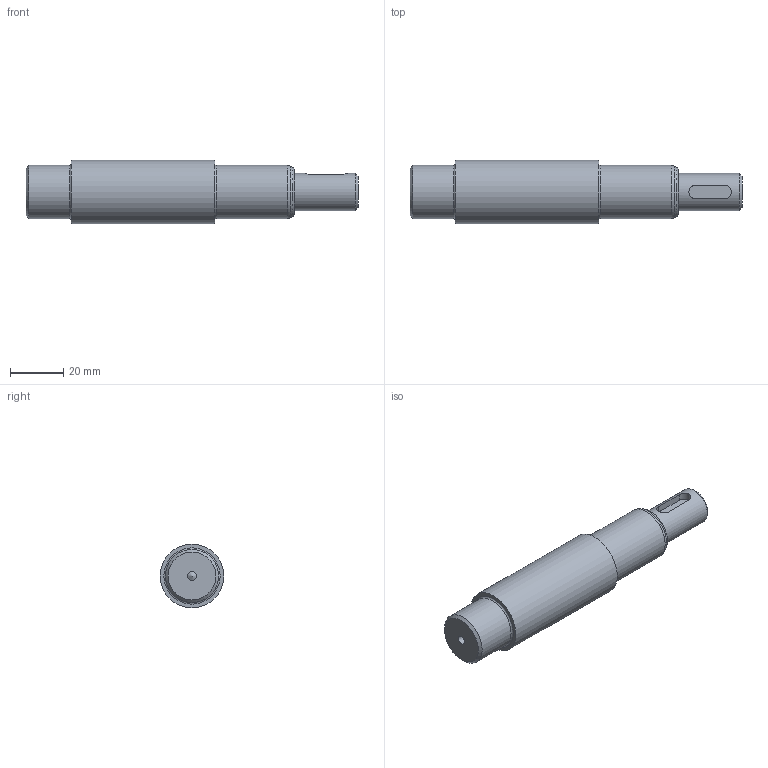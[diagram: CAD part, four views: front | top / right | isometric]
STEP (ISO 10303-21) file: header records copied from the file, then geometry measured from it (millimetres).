
FILE_DESCRIPTION(/* description */ (''),/* implementation_level */ '2;1');
FILE_NAME(/* name */ '',/* time_stamp */ '2026-07-30T15:24:38+09:00',/* author */ ('jhkim'),/* organization */ (''),/* preprocessor_version */ 'ST-DEVELOPER v20.1',/* originating_system */ 'Autodesk Inventor 2027',/* authorisation */ '');
FILE_SCHEMA (('AUTOMOTIVE_DESIGN { 1 0 10303 214 3 1 1 }'));
Length unit declared in the file: millimetre
Products named in the file (1): 축
Bounding box: 125 x 24 x 24 mm (x, y, z)
Volume: 42390.3 mm3; surface area: 9127 mm2
Topology: 1 solids, 1 shells, 25 faces, 53 edges, 33 vertices
Faces by surface type: cylinder 8, plane 8, cone 5, torus 4
Full cylindrical faces by diameter (mm): 3.242 x2, 14 x1, 20 x2, 24 x1
Entity records: 739 total; most frequent: CARTESIAN_POINT 146, DIRECTION 126, ORIENTED_EDGE 102, AXIS2_PLACEMENT_3D 53, EDGE_CURVE 51, VERTEX_POINT 33, EDGE_LOOP 30, CIRCLE 27
